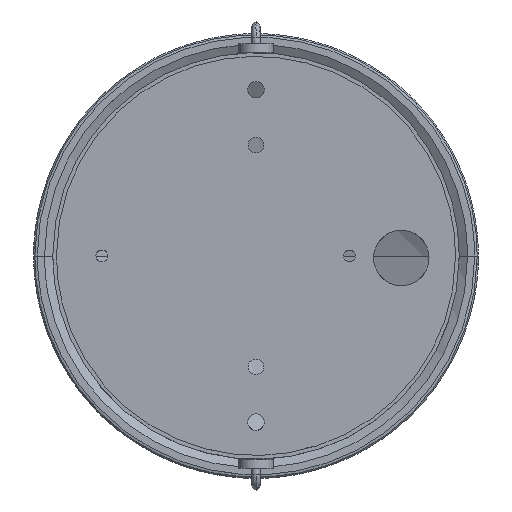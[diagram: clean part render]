
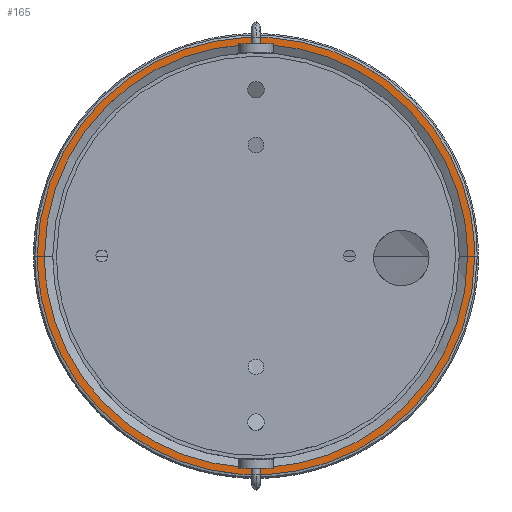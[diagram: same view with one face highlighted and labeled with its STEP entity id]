
A CAD part, top view. The second image highlights one B-rep face of the part: STEP entity #165.
In plain terms, the highlighted planar face has unit normal (0, 0, 1).
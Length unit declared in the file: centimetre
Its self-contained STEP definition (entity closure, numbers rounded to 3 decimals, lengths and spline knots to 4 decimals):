
#39=FACE_BOUND('',#484,.T.);
#165=ADVANCED_FACE('',(#310,#39),#2203,.T.);
#310=FACE_OUTER_BOUND('',#483,.T.);
#483=EDGE_LOOP('',(#981,#982));
#484=EDGE_LOOP('',(#983,#984));
#981=ORIENTED_EDGE('',*,*,#1433,.F.);
#982=ORIENTED_EDGE('',*,*,#1420,.F.);
#983=ORIENTED_EDGE('',*,*,#1423,.T.);
#984=ORIENTED_EDGE('',*,*,#1436,.T.);
#1420=EDGE_CURVE('',#2005,#2012,#1805,.T.);
#1423=EDGE_CURVE('',#2006,#2014,#1808,.T.);
#1433=EDGE_CURVE('',#2012,#2005,#1816,.T.);
#1436=EDGE_CURVE('',#2014,#2006,#1818,.T.);
#1805=(
BOUNDED_CURVE()
B_SPLINE_CURVE(2,(#4093,#4094,#4095,#4096,#4097),.UNSPECIFIED.,.F.,.F.)
B_SPLINE_CURVE_WITH_KNOTS((3,2,3),(0.,92.9843,185.9685),
 .UNSPECIFIED.)
CURVE()
GEOMETRIC_REPRESENTATION_ITEM()
RATIONAL_B_SPLINE_CURVE((1.,0.707,1.,0.707,1.))
REPRESENTATION_ITEM('')
);
#1808=(
BOUNDED_CURVE()
B_SPLINE_CURVE(2,(#4108,#4109,#4110,#4111,#4112),.UNSPECIFIED.,.F.,.F.)
B_SPLINE_CURVE_WITH_KNOTS((3,2,3),(-359.7124,-269.7843,
-179.8562),.UNSPECIFIED.)
CURVE()
GEOMETRIC_REPRESENTATION_ITEM()
RATIONAL_B_SPLINE_CURVE((1.,0.707,1.,0.707,1.))
REPRESENTATION_ITEM('')
);
#1816=(
BOUNDED_CURVE()
B_SPLINE_CURVE(2,(#4148,#4149,#4150,#4151,#4152),.UNSPECIFIED.,.F.,.F.)
B_SPLINE_CURVE_WITH_KNOTS((3,2,3),(185.9685,278.9528,371.9371),
 .UNSPECIFIED.)
CURVE()
GEOMETRIC_REPRESENTATION_ITEM()
RATIONAL_B_SPLINE_CURVE((1.,0.707,1.,0.707,1.))
REPRESENTATION_ITEM('')
);
#1818=(
BOUNDED_CURVE()
B_SPLINE_CURVE(2,(#4160,#4161,#4162,#4163,#4164),.UNSPECIFIED.,.F.,.F.)
B_SPLINE_CURVE_WITH_KNOTS((3,2,3),(-179.8562,-89.9281,
0.),.UNSPECIFIED.)
CURVE()
GEOMETRIC_REPRESENTATION_ITEM()
RATIONAL_B_SPLINE_CURVE((1.,0.707,1.,0.707,1.))
REPRESENTATION_ITEM('')
);
#2005=VERTEX_POINT('',#4062);
#2006=VERTEX_POINT('',#4063);
#2012=VERTEX_POINT('',#4069);
#2014=VERTEX_POINT('',#4071);
#2203=PLANE('',#2390);
#2390=AXIS2_PLACEMENT_3D('',#3894,#2515,$);
#2515=DIRECTION('',(0.,0.,1.));
#3894=CARTESIAN_POINT('',(638.3331,2735.5127,1546.0263));
#4062=CARTESIAN_POINT('',(638.3431,2794.7183,1546.0263));
#4063=CARTESIAN_POINT('',(640.2887,2794.7183,1546.0263));
#4069=CARTESIAN_POINT('',(756.7344,2794.7183,1546.0263));
#4071=CARTESIAN_POINT('',(754.7887,2794.7183,1546.0263));
#4093=CARTESIAN_POINT('',(638.3431,2794.7183,1546.0263));
#4094=CARTESIAN_POINT('',(638.3431,2853.9139,1546.0263));
#4095=CARTESIAN_POINT('',(697.5387,2853.9139,1546.0263));
#4096=CARTESIAN_POINT('',(756.7344,2853.9139,1546.0263));
#4097=CARTESIAN_POINT('',(756.7344,2794.7183,1546.0263));
#4108=CARTESIAN_POINT('',(640.2887,2794.7183,1546.0263));
#4109=CARTESIAN_POINT('',(640.2887,2851.9683,1546.0263));
#4110=CARTESIAN_POINT('',(697.5387,2851.9683,1546.0263));
#4111=CARTESIAN_POINT('',(754.7887,2851.9683,1546.0263));
#4112=CARTESIAN_POINT('',(754.7887,2794.7183,1546.0263));
#4148=CARTESIAN_POINT('',(756.7344,2794.7183,1546.0263));
#4149=CARTESIAN_POINT('',(756.7344,2735.5227,1546.0263));
#4150=CARTESIAN_POINT('',(697.5387,2735.5227,1546.0263));
#4151=CARTESIAN_POINT('',(638.3431,2735.5227,1546.0263));
#4152=CARTESIAN_POINT('',(638.3431,2794.7183,1546.0263));
#4160=CARTESIAN_POINT('',(754.7887,2794.7183,1546.0263));
#4161=CARTESIAN_POINT('',(754.7887,2737.4683,1546.0263));
#4162=CARTESIAN_POINT('',(697.5387,2737.4683,1546.0263));
#4163=CARTESIAN_POINT('',(640.2887,2737.4683,1546.0263));
#4164=CARTESIAN_POINT('',(640.2887,2794.7183,1546.0263));
